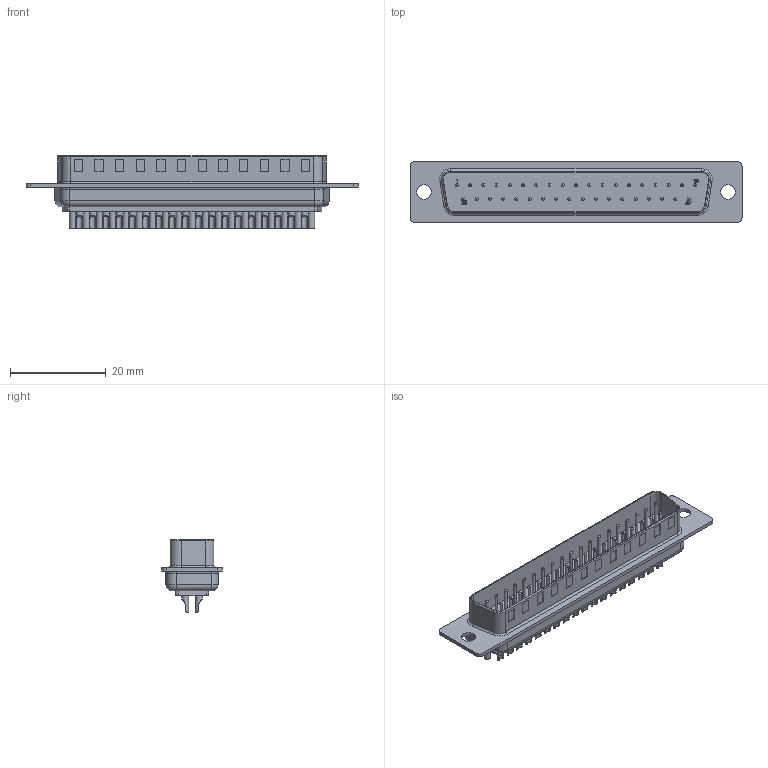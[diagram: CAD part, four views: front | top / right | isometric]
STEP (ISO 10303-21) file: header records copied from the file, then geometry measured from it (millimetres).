
FILE_DESCRIPTION (( 'STEP AP203' ), '1' );
FILE_NAME ('772-E37-103R001.STEP', '2026-04-28T15:14:56', ( '' ), ( '' ), 'SwSTEP 2.0', 'SolidWorks 2020', '' );
FILE_SCHEMA (( 'CONFIG_CONTROL_DESIGN' ));
Length unit declared in the file: inch
Products named in the file (1): 772-E37-103R001
Bounding box: 69.39 x 12.6 x 15.21 mm (x, y, z)
Volume: 3811.2 mm3; surface area: 5245 mm2
Topology: 1 solids, 1 shells, 908 faces, 2158 edges, 1391 vertices
Faces by surface type: plane 469, cylinder 312, bspline 74, torus 53
Full cylindrical faces by diameter (mm): 0.61 x37, 1.143 x37, 1.397 x19, 1.473 x37, 3.048 x2
Entity records: 30631 total; most frequent: CARTESIAN_POINT 11179, ORIENTED_EDGE 3978, DIRECTION 3530, EDGE_CURVE 1989, VERTEX_POINT 1391, EDGE_LOOP 1220, AXIS2_PLACEMENT_3D 1220, VECTOR 1090
